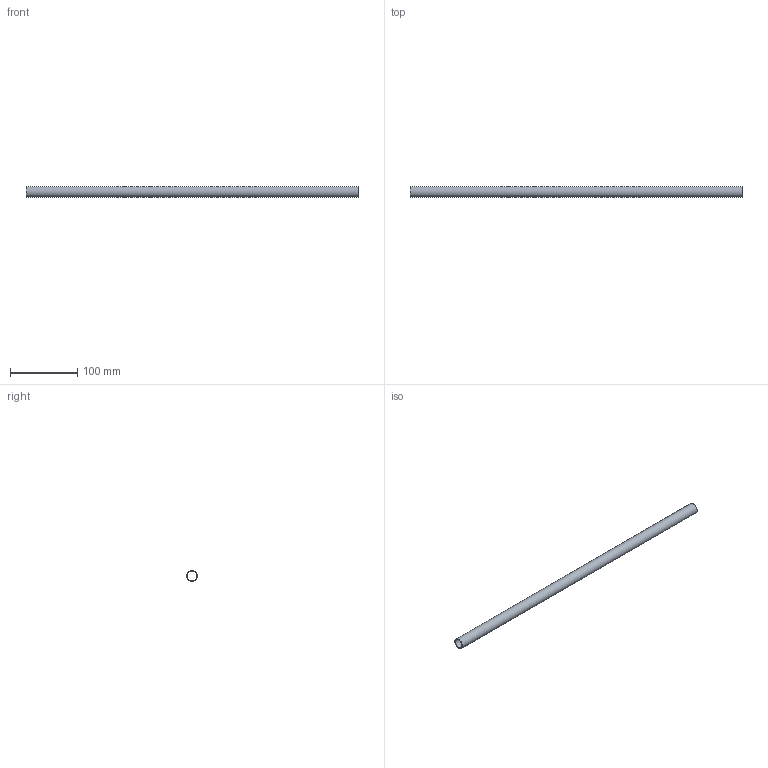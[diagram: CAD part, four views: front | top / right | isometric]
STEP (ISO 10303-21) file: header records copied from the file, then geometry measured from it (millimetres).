
FILE_DESCRIPTION(/* description */ (''),/* implementation_level */ '2;1');
FILE_NAME(/* name */ 'Boom.step',/* time_stamp */ '2023-08-12T23:50:57+03:00',/* author */ (''),/* organization */ (''),/* preprocessor_version */ 'ST-DEVELOPER v20',/* originating_system */ 'Autodesk Translation Framework v12.9.0.99',/* authorisation */ '');
FILE_SCHEMA (('AUTOMOTIVE_DESIGN { 1 0 10303 214 3 1 1 }'));
Length unit declared in the file: millimetre
Products named in the file (1): Boom
Bounding box: 495 x 16 x 16 mm (x, y, z)
Volume: 23326.3 mm3; surface area: 46746.9 mm2
Topology: 1 solids, 1 shells, 4 faces, 6 edges, 4 vertices
Faces by surface type: cylinder 2, plane 2
Full cylindrical faces by diameter (mm): 14 x1, 16 x1
Entity records: 138 total; most frequent: DIRECTION 20, CARTESIAN_POINT 15, ORIENTED_EDGE 12, AXIS2_PLACEMENT_3D 9, EDGE_LOOP 6, EDGE_CURVE 6, FACE_OUTER_BOUND 4, CIRCLE 4
